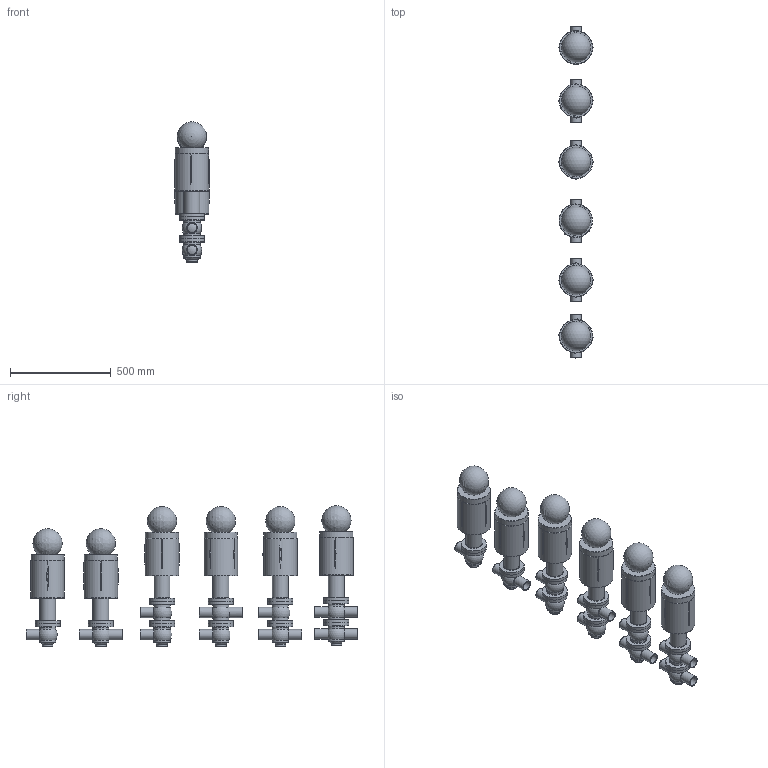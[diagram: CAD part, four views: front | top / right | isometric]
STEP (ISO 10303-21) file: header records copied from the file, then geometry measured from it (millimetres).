
FILE_DESCRIPTION(/* description */ (''),/* implementation_level */ '2;1');
FILE_NAME(/* name */ 'C:\Users\marz-m\Desktop\PDF\BBZQ 3D STEP\BBZQ-DN50-CIL.156.stp',/* time_stamp */ '2018-04-13T15:01:05+02:00',/* author */ ('marz-m'),/* organization */ (''),/* preprocessor_version */ 'ST-DEVELOPER v17',/* originating_system */ 'Autodesk Inventor 2018',/* authorisation */ '');
FILE_SCHEMA (('AUTOMOTIVE_DESIGN { 1 0 10303 214 3 1 1 }'));
Length unit declared in the file: millimetre
Products named in the file (8): BBZQ-DN50-CIL.156; COR-INF-L-BBZQ-DN052X3-SALD; COR-INF-T-BBZQ-DN052X3-SALD; assemblaggio dn50 per cil 108-156; CIL156; SAGOMA-GIOTTO-; CORPO-SUP-INF-BBZQ-L-DN52X3-SALD; CORPO-SUP-INF-BBZQ-T-DN52X3-SALD
Assembly tree (28 placements, depth 2):
  BBZQ-DN50-CIL.156
    COR-INF-L-BBZQ-DN052X3-SALD  x3
    COR-INF-T-BBZQ-DN052X3-SALD  x3
    assemblaggio dn50 per cil 108-156  x6
    CIL156  x6
    SAGOMA-GIOTTO-  x6
    CORPO-SUP-INF-BBZQ-L-DN52X3-SALD  x2
    CORPO-SUP-INF-BBZQ-T-DN52X3-SALD  x2
Bounding box: 172.04 x 1644.54 x 695.32 mm (x, y, z)
Volume: 49614646.5 mm3; surface area: 2620466.3 mm2
Topology: 28 solids, 28 shells, 386 faces, 908 edges, 664 vertices
Faces by surface type: cylinder 112, plane 109, cone 72, torus 38, sphere 31, bspline 24
Full cylindrical faces by diameter (mm): 20 x12, 46 x21, 52 x21, 79 x6, 80 x20, 124 x20, 164.5 x6, 166 x6
Entity records: 4139 total; most frequent: CARTESIAN_POINT 1133, DIRECTION 656, ORIENTED_EDGE 488, AXIS2_PLACEMENT_3D 307, EDGE_CURVE 244, VERTEX_POINT 180, CIRCLE 168, EDGE_LOOP 136
